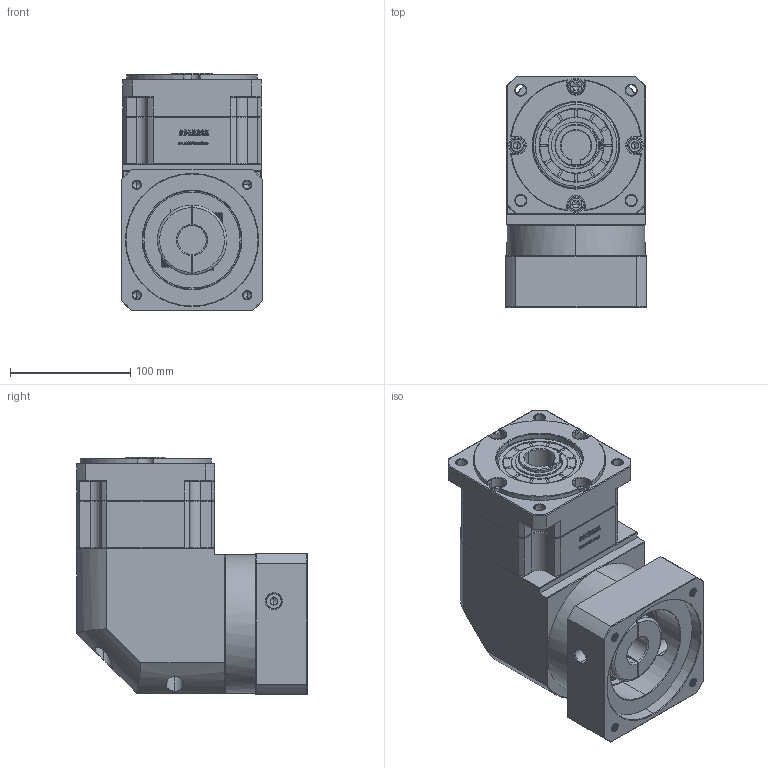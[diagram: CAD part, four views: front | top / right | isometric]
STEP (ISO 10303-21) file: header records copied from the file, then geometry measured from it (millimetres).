
FILE_DESCRIPTION (( 'STEP AP214' ), '1' );
FILE_NAME ('ZBR115A-K25-L1-24-110-130-M8.step', '2023-03-03T05:05:49', ( '' ), ( 'Microsoft' ), 'SwSTEP 2.0', 'SolidWorks 2016', '' );
FILE_SCHEMA (( 'AUTOMOTIVE_DESIGN' ));
Length unit declared in the file: millimetre
Products named in the file (1): ZBR115A-K25-L1-24-110-130-M8
Bounding box: 118 x 192.4 x 198 mm (x, y, z)
Volume: 2889632.9 mm3; surface area: 244857.2 mm2
Topology: 6 solids, 6 shells, 2926 faces, 7778 edges, 4998 vertices
Faces by surface type: plane 1552, bspline 597, cylinder 406, cone 363, torus 8
Entity records: 156433 total; most frequent: CARTESIAN_POINT 56127, ORIENTED_EDGE 15500, DIRECTION 11771, EDGE_CURVE 7750, LINE 5255, VECTOR 5255, VERTEX_POINT 4998, AXIS2_PLACEMENT_3D 3258
